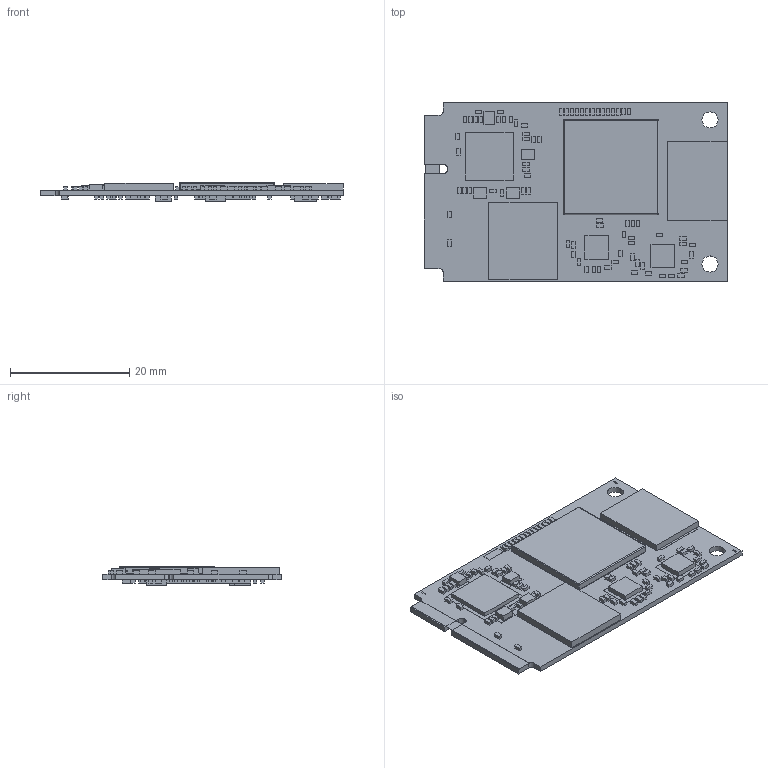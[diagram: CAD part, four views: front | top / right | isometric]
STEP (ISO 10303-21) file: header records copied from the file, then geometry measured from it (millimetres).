
FILE_DESCRIPTION(('STEP AP214'),'1');
FILE_NAME('sk_a40i_nano.step','2023-02-15T10:49:49',(' '),(' '),'Spatial InterOp 3D','XD3DPlugin XRACreate',' ');
FILE_SCHEMA(('automotive_design'));
Length unit declared in the file: millimetre
Products named in the file (111): DesignRootModel; uid__9208676; Submodel-noModelForPart_CAP_0402_872604882; placementOutline; Submodel-CAP_0402_872604882_part_CAPC1005X56N; Submodel-noModelForPart_CAP_0402_3511803187; Submodel-CAP_0402_3511803187_part_CAPC1005X56N; Submodel-noModelForPart_RES_0402_2271991565; Submodel-RES_0402_2271991565_part_RESC1005X40BN; Submodel-noModelForPart_CAP_0402_2051605626; Submodel-CAP_0402_2051605626_part_CAPC1005X56N; Submodel-noModelForPart_RES_0402_2051605626; Submodel-RES_0402_2051605626_part_RESC1005X40BN; Submodel-noModelForPart_CAP_0402_2271991565; Submodel-CAP_0402_2271991565_part_CAPC1005X56N; Submodel-noModelForPart_RES_0402_872604882; Submodel-RES_0402_872604882_part_RESC1005X40BN; Submodel-noModelForPart_CAP_0402_1129422897; Submodel-CAP_0402_1129422897_part_CAPC1005X56N; Submodel-noModelForPart_CAP_0402_1541938758; Submodel-CAP_0402_1541938758_part_CAPC1005X56N; Submodel-noModelForPart_CAP_0402_2157919439; Submodel-CAP_0402_2157919439_part_CAPC1005X56N; Submodel-noModelForPart_RES_0402_1541938758; Submodel-RES_0402_1541938758_part_RESC1005X40BN; Submodel-noModelForPart_CKP2016_54579339; Submodel-CKP2016_54579339_part_INDC2016X100N; Submodel-noModelForPart_CKP2016_609191625; Submodel-CKP2016_609191625_part_INDC2016X100N; Submodel-noModelForPart_mPCIe_edge_2223017403; Submodel-mPCIe_edge_2223017403_part_mPCIe; Submodel-noModelForPart_RES_0402_2157919439; Submodel-RES_0402_2157919439_part_RESC1005X40BN; Submodel-noModelForPart_CKP2016_3712640863; Submodel-CKP2016_3712640863_part_INDC2016X100N; Submodel-noModelForPart_PLS2-2_3153375760; Submodel-PLS2-2_3153375760_part_PLS2-2; Submodel-noModelForPart_REF_1865145589; Submodel-REF_1865145589_part_REF; Submodel-noModelForPart_DDR3x16x8G_3628027062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
Assembly tree (255 placements, depth 6):
  ProductRootModel
    DesignRootModel
      uid__9208676
      Submodel-CAP_0402_872604882_part_CAPC1005X56N  x24
        Submodel-noModelForPart_CAP_0402_872604882
          placementOutline
      Submodel-CAP_0402_3511803187_part_CAPC1005X56N  x10
        Submodel-noModelForPart_CAP_0402_3511803187
          placementOutline
      Submodel-RES_0402_2271991565_part_RESC1005X40BN  x10
        Submodel-noModelForPart_RES_0402_2271991565
          placementOutline
      Submodel-CAP_0402_2051605626_part_CAPC1005X56N  x12
        Submodel-noModelForPart_CAP_0402_2051605626
          placementOutline
      Submodel-RES_0402_2051605626_part_RESC1005X40BN  x9
        Submodel-noModelForPart_RES_0402_2051605626
          placementOutline
      Submodel-CAP_0402_2271991565_part_CAPC1005X56N  x6
        Submodel-noModelForPart_CAP_0402_2271991565
          placementOutline
      Submodel-RES_0402_872604882_part_RESC1005X40BN  x5
        Submodel-noModelForPart_RES_0402_872604882
          placementOutline
      Submodel-CAP_0402_1129422897_part_CAPC1005X56N  x14
        Submodel-noModelForPart_CAP_0402_1129422897
          placementOutline
      Submodel-CAP_0402_1541938758_part_CAPC1005X56N  x16
        Submodel-noModelForPart_CAP_0402_1541938758
          placementOutline
      Submodel-CAP_0402_2157919439_part_CAPC1005X56N  x13
        Submodel-noModelForPart_CAP_0402_2157919439
          placementOutline
      Submodel-RES_0402_1541938758_part_RESC1005X40BN  x8
        Submodel-noModelForPart_RES_0402_1541938758
          placementOutline
      Submodel-CKP2016_54579339_part_INDC2016X100N  x2
        Submodel-noModelForPart_CKP2016_54579339
          placementOutline
          placementOutline
      Submodel-CKP2016_609191625_part_INDC2016X100N
        Submodel-noModelForPart_CKP2016_609191625
          placementOutline
          placementOutline
      Submodel-mPCIe_edge_2223017403_part_mPCIe
        Submodel-noModelForPart_mPCIe_edge_2223017403
          placementOutline
      Submodel-RES_0402_2157919439_part_RESC1005X40BN  x6
        Submodel-noModelForPart_RES_0402_2157919439
          placementOutline
      Submodel-CKP2016_3712640863_part_INDC2016X100N
        Submodel-noModelForPart_CKP2016_3712640863
          placementOutline
          placementOutline
      Submodel-PLS2-2_3153375760_part_PLS2-2
        Submodel-noModelForPart_PLS2-2_3153375760
          placementOutline
      Submodel-REF_1865145589_part_REF  x3
        Submodel-noModelForPart_REF_1865145589
          placementOutline
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Bounding box: 51 x 30 x 3.26 mm (x, y, z)
Volume: 2259.1 mm3; surface area: 6433.1 mm2
Topology: 191 solids, 191 shells, 1180 faces, 2378 edges, 1572 vertices
Faces by surface type: plane 1154, cylinder 18, sphere 8
Full cylindrical faces by diameter (mm): 2.7 x2
Entity records: 14388 total; most frequent: DIRECTION 1880, CARTESIAN_POINT 1620, ORIENTED_EDGE 1208, AXIS2_PLACEMENT_3D 656, EDGE_CURVE 604, LINE 568, VECTOR 568, VERTEX_POINT 396
